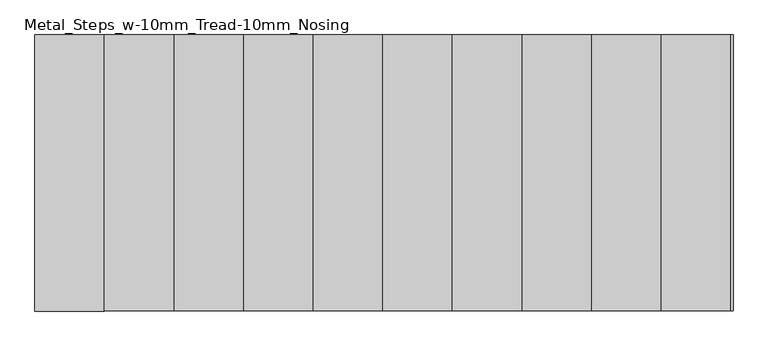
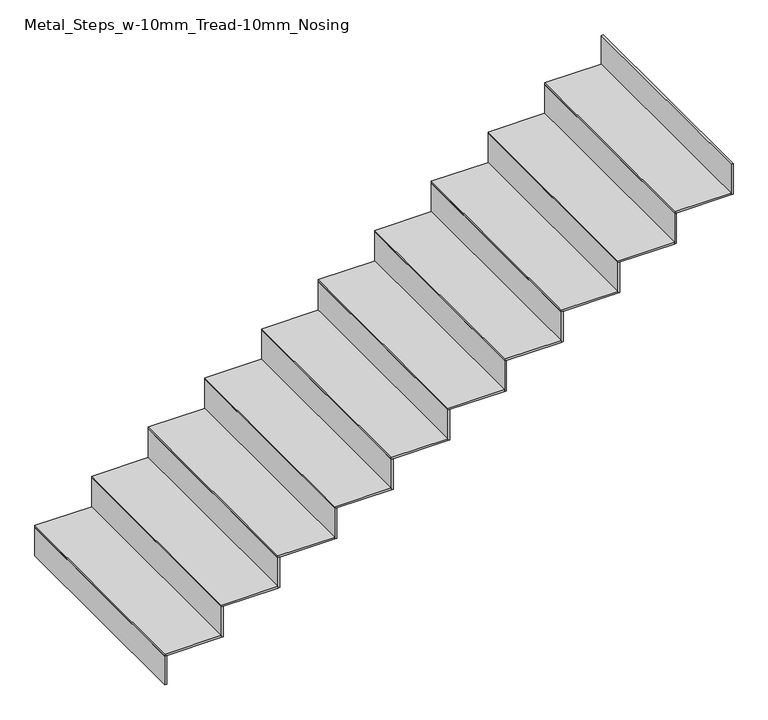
"""IFC4 building model written with IfcOpenShell, lengths in millimetres: stair flight geometry, Metal_Steps_w-10mm_Tread-10mm_Nosing."""

from ifc_helpers import new_model, si_unit, frame, origin, place, context, project, spatial, polyline, outline, extrude, source, transform, mapped, element, save


def metal_steps_w_10mm_tread_10mm_nosing_309ba8eb(model_context):
    return source(origin(), model_context, "Body", "SweptSolid", [
        extrude(outline(polyline([(-791.4958562, 12334.1395051), (-801.4958562, 12334.1395051), (-801.4958562, 13524.1395051), (-791.4958562, 13524.1395051), (-791.4958562, 12334.1395051)])), frame((0.0, 0.0, 15010.0), z_axis=(0.0, 0.0, 1.0), x_axis=(1.0, 0.0, 0.0)), (0.0, 0.0, 1.0), 160.4545455),
        extrude(outline(polyline([(-501.4958562, 13524.1395051), (-501.4958562, 12334.1395051), (-801.4958562, 12334.1395051), (-801.4958562, 13524.1395051), (-501.4958562, 13524.1395051)])), frame((0.0, 0.0, 15170.4545455), z_axis=(0.0, 0.0, 1.0), x_axis=(1.0, 0.0, 0.0)), (0.0, 0.0, 1.0), 10.0),
        extrude(outline(polyline([(-491.4958562, 12334.1395051), (-501.4958562, 12334.1395051), (-501.4958562, 13524.1395051), (-491.4958562, 13524.1395051), (-491.4958562, 12334.1395051)])), frame((0.0, 0.0, 15170.4545455), z_axis=(0.0, 0.0, 1.0), x_axis=(1.0, 0.0, 0.0)), (0.0, 0.0, 1.0), 170.4545455),
        extrude(outline(polyline([(-201.4958562, 13524.1395051), (-201.4958562, 12334.1395051), (-501.4958562, 12334.1395051), (-501.4958562, 13524.1395051), (-201.4958562, 13524.1395051)])), frame((0.0, 0.0, 15340.9090909), z_axis=(0.0, 0.0, 1.0), x_axis=(1.0, 0.0, 0.0)), (0.0, 0.0, 1.0), 10.0),
        extrude(outline(polyline([(-191.4958562, 12334.1395051), (-201.4958562, 12334.1395051), (-201.4958562, 13524.1395051), (-191.4958562, 13524.1395051), (-191.4958562, 12334.1395051)])), frame((0.0, 0.0, 15340.9090909), z_axis=(0.0, 0.0, 1.0), x_axis=(1.0, 0.0, 0.0)), (0.0, 0.0, 1.0), 170.4545455),
        extrude(outline(polyline([(98.5041438, 13524.1395051), (98.5041438, 12334.1395051), (-201.4958562, 12334.1395051), (-201.4958562, 13524.1395051), (98.5041438, 13524.1395051)])), frame((0.0, 0.0, 15511.3636364), z_axis=(0.0, 0.0, 1.0), x_axis=(1.0, 0.0, 0.0)), (0.0, 0.0, 1.0), 10.0),
        extrude(outline(polyline([(108.5041438, 12334.1395051), (98.5041438, 12334.1395051), (98.5041438, 13524.1395051), (108.5041438, 13524.1395051), (108.5041438, 12334.1395051)])), frame((0.0, 0.0, 15511.3636364), z_axis=(0.0, 0.0, 1.0), x_axis=(1.0, 0.0, 0.0)), (0.0, 0.0, 1.0), 170.4545455),
        extrude(outline(polyline([(398.5041438, 13524.1395051), (398.5041438, 12334.1395051), (98.5041438, 12334.1395051), (98.5041438, 13524.1395051), (398.5041438, 13524.1395051)])), frame((0.0, 0.0, 15681.8181818), z_axis=(0.0, 0.0, 1.0), x_axis=(1.0, 0.0, 0.0)), (0.0, 0.0, 1.0), 10.0),
        extrude(outline(polyline([(408.5041438, 12334.1395051), (398.5041438, 12334.1395051), (398.5041438, 13524.1395051), (408.5041438, 13524.1395051), (408.5041438, 12334.1395051)])), frame((0.0, 0.0, 15681.8181818), z_axis=(0.0, 0.0, 1.0), x_axis=(1.0, 0.0, 0.0)), (0.0, 0.0, 1.0), 170.4545455),
        extrude(outline(polyline([(698.5041438, 13524.1395051), (698.5041438, 12334.1395051), (398.5041438, 12334.1395051), (398.5041438, 13524.1395051), (698.5041438, 13524.1395051)])), frame((0.0, 0.0, 15852.2727273), z_axis=(0.0, 0.0, 1.0), x_axis=(1.0, 0.0, 0.0)), (0.0, 0.0, 1.0), 10.0),
        extrude(outline(polyline([(708.5041438, 12334.1395051), (698.5041438, 12334.1395051), (698.5041438, 13524.1395051), (708.5041438, 13524.1395051), (708.5041438, 12334.1395051)])), frame((0.0, 0.0, 15852.2727273), z_axis=(0.0, 0.0, 1.0), x_axis=(1.0, 0.0, 0.0)), (0.0, 0.0, 1.0), 170.4545455),
        extrude(outline(polyline([(998.5041438, 13524.1395051), (998.5041438, 12334.1395051), (698.5041438, 12334.1395051), (698.5041438, 13524.1395051), (998.5041438, 13524.1395051)])), frame((0.0, 0.0, 16022.7272727), z_axis=(0.0, 0.0, 1.0), x_axis=(1.0, 0.0, 0.0)), (0.0, 0.0, 1.0), 10.0),
        extrude(outline(polyline([(1008.5041438, 12334.1395051), (998.5041438, 12334.1395051), (998.5041438, 13524.1395051), (1008.5041438, 13524.1395051), (1008.5041438, 12334.1395051)])), frame((0.0, 0.0, 16022.7272727), z_axis=(0.0, 0.0, 1.0), x_axis=(1.0, 0.0, 0.0)), (0.0, 0.0, 1.0), 170.4545455),
        extrude(outline(polyline([(1298.5041438, 13524.1395051), (1298.5041438, 12334.1395051), (998.5041438, 12334.1395051), (998.5041438, 13524.1395051), (1298.5041438, 13524.1395051)])), frame((0.0, 0.0, 16193.1818182), z_axis=(0.0, 0.0, 1.0), x_axis=(1.0, 0.0, 0.0)), (0.0, 0.0, 1.0), 10.0),
        extrude(outline(polyline([(1308.5041438, 12334.1395051), (1298.5041438, 12334.1395051), (1298.5041438, 13524.1395051), (1308.5041438, 13524.1395051), (1308.5041438, 12334.1395051)])), frame((0.0, 0.0, 16193.1818182), z_axis=(0.0, 0.0, 1.0), x_axis=(1.0, 0.0, 0.0)), (0.0, 0.0, 1.0), 170.4545455),
        extrude(outline(polyline([(1598.5041438, 13524.1395051), (1598.5041438, 12334.1395051), (1298.5041438, 12334.1395051), (1298.5041438, 13524.1395051), (1598.5041438, 13524.1395051)])), frame((0.0, 0.0, 16363.6363636), z_axis=(0.0, 0.0, 1.0), x_axis=(1.0, 0.0, 0.0)), (0.0, 0.0, 1.0), 10.0),
        extrude(outline(polyline([(1608.5041438, 12334.1395051), (1598.5041438, 12334.1395051), (1598.5041438, 13524.1395051), (1608.5041438, 13524.1395051), (1608.5041438, 12334.1395051)])), frame((0.0, 0.0, 16363.6363636), z_axis=(0.0, 0.0, 1.0), x_axis=(1.0, 0.0, 0.0)), (0.0, 0.0, 1.0), 170.4545455),
        extrude(outline(polyline([(1898.5041438, 13524.1395051), (1898.5041438, 12334.1395051), (1598.5041438, 12334.1395051), (1598.5041438, 13524.1395051), (1898.5041438, 13524.1395051)])), frame((0.0, 0.0, 16534.0909091), z_axis=(0.0, 0.0, 1.0), x_axis=(1.0, 0.0, 0.0)), (0.0, 0.0, 1.0), 10.0),
        extrude(outline(polyline([(1908.5041438, 12334.1395051), (1898.5041438, 12334.1395051), (1898.5041438, 13524.1395051), (1908.5041438, 13524.1395051), (1908.5041438, 12334.1395051)])), frame((0.0, 0.0, 16534.0909091), z_axis=(0.0, 0.0, 1.0), x_axis=(1.0, 0.0, 0.0)), (0.0, 0.0, 1.0), 170.4545455),
        extrude(outline(polyline([(2208.5041438, 12334.1395051), (2198.5041438, 12334.1395051), (2198.5041438, 13524.1395051), (2208.5041438, 13524.1395051), (2208.5041438, 12334.1395051)])), frame((0.0, 0.0, 16704.5454545), z_axis=(0.0, 0.0, 1.0), x_axis=(1.0, 0.0, 0.0)), (0.0, 0.0, 1.0), 170.4545455),
        extrude(outline(polyline([(2198.5041438, 13524.1395051), (2198.5041438, 12334.1395051), (1898.5041438, 12334.1395051), (1898.5041438, 13524.1395051), (2198.5041438, 13524.1395051)])), frame((0.0, 0.0, 16704.5454545), z_axis=(0.0, 0.0, 1.0), x_axis=(1.0, 0.0, 0.0)), (0.0, 0.0, 1.0), 10.0),
    ])


if __name__ == "__main__":
    model = new_model("IFC4")
    model_context = context("Model", 3, world=origin())
    ifc_project = project(units=[si_unit("LENGTHUNIT", "METRE", prefix="MILLI")], contexts=[model_context])
    site = spatial("IfcSite", under=ifc_project)
    building = spatial("IfcBuilding", under=site)
    placement = place(None, origin())
    metal_steps_w_10mm_tread_10mm_nosing_shape = metal_steps_w_10mm_tread_10mm_nosing_309ba8eb(model_context)
    element("IfcStairFlight", 1, ObjectType="Metal_Steps_w-10mm_Tread-10mm_Nosing", at=placement, inside=building, context=model_context, shape_type="MappedRepresentation", body=[
        mapped(metal_steps_w_10mm_tread_10mm_nosing_shape, transform((0.0, 0.0, 0.0), x_axis=(1.0, 0.0, 0.0), y_axis=(0.0, 1.0, 0.0), z_axis=(0.0, 0.0, 1.0))),
    ])
    save(model, "model.ifc")
